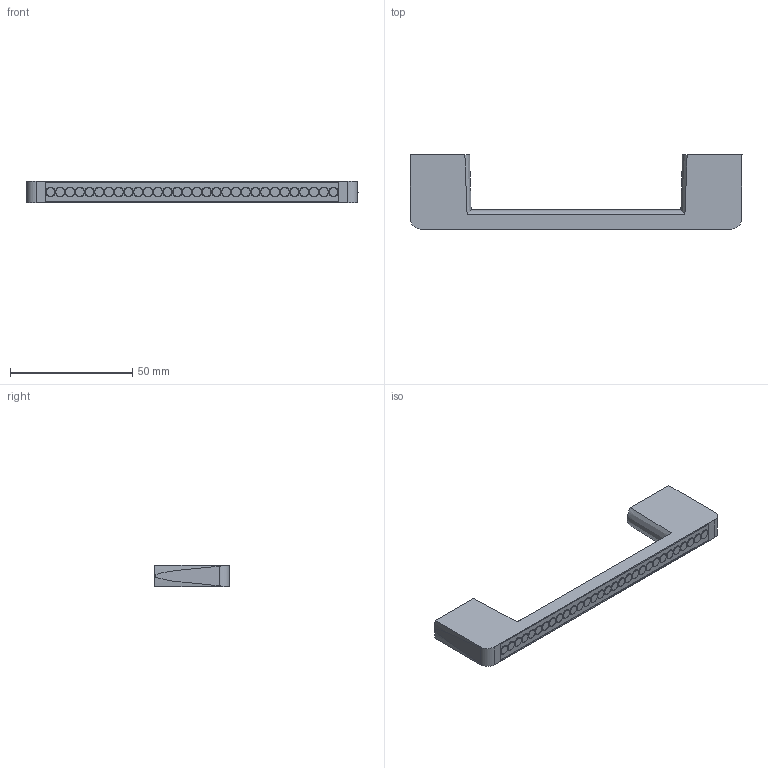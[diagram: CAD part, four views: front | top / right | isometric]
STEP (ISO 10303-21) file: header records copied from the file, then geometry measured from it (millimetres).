
FILE_DESCRIPTION( ( '' ), '1' );
FILE_NAME( 'D:/1.AUTOCAD EXPORT/Group 10/sheet_10_1/9113674.stp', '2013-10-18T05:47:31', ( '' ), ( '' ), ' ', ' ', ' ' );
FILE_SCHEMA( ( 'automotive_design' ) );
Length unit declared in the file: millimetre
Products named in the file (1): 1
Bounding box: 136 x 30.4 x 9 mm (x, y, z)
Volume: 18169.9 mm3; surface area: 8629.3 mm2
Topology: 1 solids, 1 shells, 488 faces, 1778 edges, 1116 vertices
Faces by surface type: cone 182, plane 171, torus 120, cylinder 15
Entity records: 37585 total; most frequent: CARTESIAN_POINT 4539, ORIENTED_EDGE 3436, STYLED_ITEM 3323, PRESENTATION_STYLE_ASSIGNMENT 3323, COLOUR_RGB 3323, DIRECTION 3181, EDGE_CURVE 1718, CURVE_STYLE 1718
